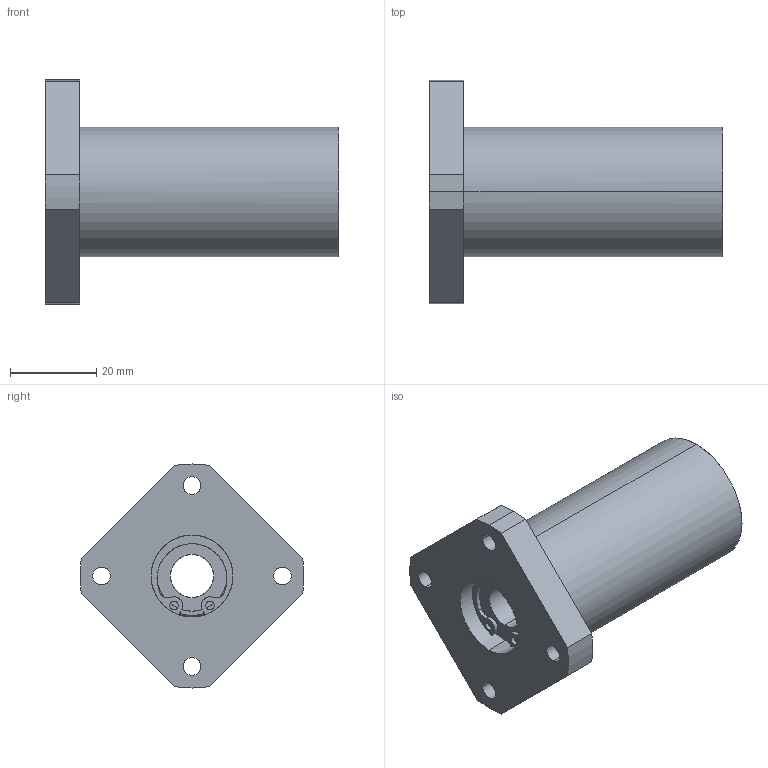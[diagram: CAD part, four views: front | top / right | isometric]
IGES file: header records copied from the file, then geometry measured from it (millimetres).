
Global section: file name: No Iges File Name specified; native system: AutoDesk Inventor R10; preprocessor: AutoDesk Inventor Iges Exporter R10; author: No Author specified; organization: No Organization specified; date: 20101214.135600; units: millimetre
Bounding box: 68 x 51.93 x 52 mm (x, y, z)
Surface area: 14545.4 mm2 (no closed solid volume)
Topology: 0 solids, 0 shells, 119 faces, 856 edges, 856 vertices
Faces by surface type: bspline 119
